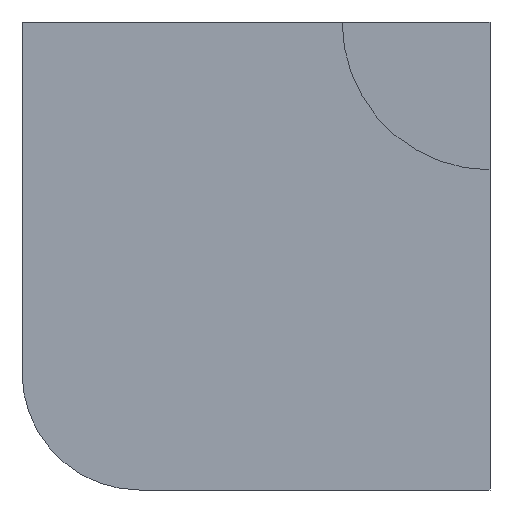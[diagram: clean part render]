
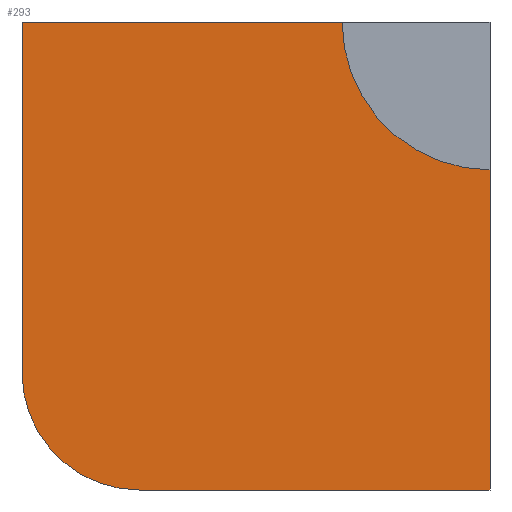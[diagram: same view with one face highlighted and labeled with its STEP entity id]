
A CAD part, left-side view. The second image highlights one B-rep face of the part: STEP entity #293.
In plain terms, the highlighted planar face has unit normal (-1, 0, 0).
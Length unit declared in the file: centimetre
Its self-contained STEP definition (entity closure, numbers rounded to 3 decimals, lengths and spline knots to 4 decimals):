
#9 = CARTESIAN_POINT ( 'NONE',  ( 0., 1000., 1000. ) ) ;
#15 = EDGE_CURVE ( 'NONE', #530, #497, #518, .T. ) ;
#25 = ORIENTED_EDGE ( 'NONE', *, *, #15, .T. ) ;
#41 = DIRECTION ( 'NONE',  ( -1., 0., 0. ) ) ;
#46 = CARTESIAN_POINT ( 'NONE',  ( 0., 1000., 0. ) ) ;
#57 = CIRCLE ( 'NONE', #335, 251.1174 ) ;
#58 = LINE ( 'NONE', #96, #390 ) ;
#60 = CARTESIAN_POINT ( 'NONE',  ( 0., 0., 1000. ) ) ;
#62 = VERTEX_POINT ( 'NONE', #131 ) ;
#96 = CARTESIAN_POINT ( 'NONE',  ( 0., 1000., 1000. ) ) ;
#101 = DIRECTION ( 'NONE',  ( 0., 0., 1. ) ) ;
#105 = EDGE_CURVE ( 'NONE', #530, #147, #58, .T. ) ;
#113 = EDGE_CURVE ( 'NONE', #418, #355, #220, .T. ) ;
#128 = EDGE_LOOP ( 'NONE', ( #445, #318, #316, #25, #279, #534 ) ) ;
#131 = CARTESIAN_POINT ( 'NONE',  ( 0., 0., 684.1569 ) ) ;
#147 = VERTEX_POINT ( 'NONE', #474 ) ;
#165 = CARTESIAN_POINT ( 'NONE',  ( 0., 1000., 1000. ) ) ;
#185 = DIRECTION ( 'NONE',  ( 0., -1., 0. ) ) ;
#202 = EDGE_CURVE ( 'NONE', #62, #355, #397, .T. ) ;
#205 = DIRECTION ( 'NONE',  ( 0., 0., -1. ) ) ;
#213 = PLANE ( 'NONE',  #439 ) ;
#219 = DIRECTION ( 'NONE',  ( 0., 0., -1. ) ) ;
#220 = LINE ( 'NONE', #46, #405 ) ;
#221 = CARTESIAN_POINT ( 'NONE',  ( 0., 0., 1000. ) ) ;
#223 = DIRECTION ( 'NONE',  ( 0., -1., 0. ) ) ;
#224 = DIRECTION ( 'NONE',  ( -1., 0., 0. ) ) ;
#225 = VECTOR ( 'NONE', #475, 100. ) ;
#279 = ORIENTED_EDGE ( 'NONE', *, *, #315, .T. ) ;
#293 = ADVANCED_FACE ( 'NONE', ( #436 ), #213, .F. ) ;
#294 = DIRECTION ( 'NONE',  ( 1., 0., 0. ) ) ;
#306 = CARTESIAN_POINT ( 'NONE',  ( 0., 748.8826, 251.1174 ) ) ;
#315 = EDGE_CURVE ( 'NONE', #497, #418, #57, .T. ) ;
#316 = ORIENTED_EDGE ( 'NONE', *, *, #105, .F. ) ;
#318 = ORIENTED_EDGE ( 'NONE', *, *, #394, .F. ) ;
#333 = DIRECTION ( 'NONE',  ( 0., 0., -1. ) ) ;
#335 = AXIS2_PLACEMENT_3D ( 'NONE', #306, #41, #333 ) ;
#336 = CARTESIAN_POINT ( 'NONE',  ( 0., 0., 0. ) ) ;
#355 = VERTEX_POINT ( 'NONE', #336 ) ;
#365 = AXIS2_PLACEMENT_3D ( 'NONE', #221, #224, #101 ) ;
#390 = VECTOR ( 'NONE', #223, 100. ) ;
#394 = EDGE_CURVE ( 'NONE', #147, #62, #479, .T. ) ;
#397 = LINE ( 'NONE', #60, #538 ) ;
#405 = VECTOR ( 'NONE', #185, 100. ) ;
#418 = VERTEX_POINT ( 'NONE', #485 ) ;
#436 = FACE_OUTER_BOUND ( 'NONE', #128, .T. ) ;
#439 = AXIS2_PLACEMENT_3D ( 'NONE', #473, #294, #205 ) ;
#445 = ORIENTED_EDGE ( 'NONE', *, *, #202, .F. ) ;
#473 = CARTESIAN_POINT ( 'NONE',  ( 0., 1000., 1000. ) ) ;
#474 = CARTESIAN_POINT ( 'NONE',  ( 0., 315.8431, 1000. ) ) ;
#475 = DIRECTION ( 'NONE',  ( 0., 0., -1. ) ) ;
#479 = CIRCLE ( 'NONE', #365, 315.8431 ) ;
#485 = CARTESIAN_POINT ( 'NONE',  ( 0., 748.8826, 0. ) ) ;
#497 = VERTEX_POINT ( 'NONE', #541 ) ;
#518 = LINE ( 'NONE', #9, #225 ) ;
#530 = VERTEX_POINT ( 'NONE', #165 ) ;
#534 = ORIENTED_EDGE ( 'NONE', *, *, #113, .T. ) ;
#538 = VECTOR ( 'NONE', #219, 100. ) ;
#541 = CARTESIAN_POINT ( 'NONE',  ( 0., 1000., 251.1174 ) ) ;
